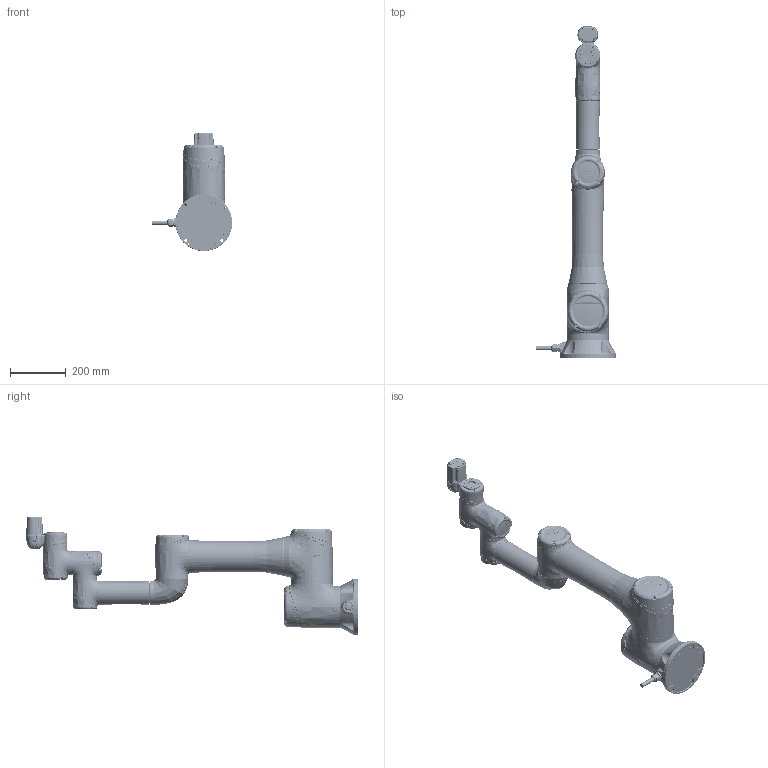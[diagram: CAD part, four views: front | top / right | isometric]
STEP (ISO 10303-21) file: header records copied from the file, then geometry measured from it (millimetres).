
FILE_DESCRIPTION((''),'2;1');
FILE_NAME('TM16-ROBOT-3D-CAD_ASM','2021-06-23T',('Jacque.Huang'),(''),'CREO PARAMETRIC BY PTC INC, 2015290','CREO PARAMETRIC BY PTC INC, 2015290','');
FILE_SCHEMA(('CONFIG_CONTROL_DESIGN'));
Products named in the file (9): BASE-TM16; J700-TM16; ARM1-TM16; J400-TM16; JOINT_L; ARM2-TM16; J100-TM16; IO-TM16; TM16-ROBOT-3D-CAD_ASM
Assembly tree (11 placements, depth 2):
  TM16-ROBOT-3D-CAD_ASM
    BASE-TM16
    J700-TM16  x2
    ARM1-TM16
    J400-TM16
    JOINT_L
    ARM2-TM16
    J100-TM16  x3
    IO-TM16
Bounding box: 287.26 x 1187.56 x 422.96 mm (x, y, z)
Volume: 9874769.8 mm3; surface area: 1841543.9 mm2
Topology: 17 solids, 45 shells, 7940 faces, 20226 edges, 12813 vertices
Faces by surface type: cylinder 2519, bspline 2364, plane 1905, cone 602, torus 335, extrusion 132, revolution 57, sphere 26
Entity records: 293431 total; most frequent: CARTESIAN_POINT 170909, ORIENTED_EDGE 27910, DIRECTION 21648, EDGE_CURVE 13955, VERTEX_POINT 8920, AXIS2_PLACEMENT_3D 8558, EDGE_LOOP 6129, FACE_OUTER_BOUND 5512
